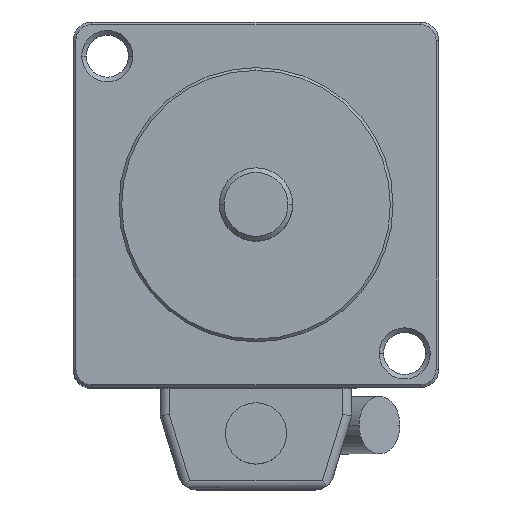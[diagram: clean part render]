
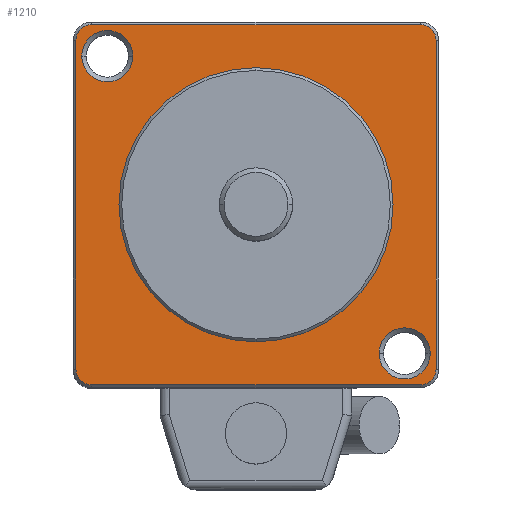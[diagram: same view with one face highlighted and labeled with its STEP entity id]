
A CAD part, top view. The second image highlights one B-rep face of the part: STEP entity #1210.
In plain terms, the highlighted planar face has unit normal (0, 0, 1).
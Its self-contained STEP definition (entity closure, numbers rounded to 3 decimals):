
#10=CARTESIAN_POINT('',(-19.7,-19.7,14.));
#20=DIRECTION('',(0.,0.,1.));
#30=DIRECTION('',(1.,0.,0.));
#40=AXIS2_PLACEMENT_3D('',#10,#20,#30);
#50=PLANE('',#40);
#60=CARTESIAN_POINT('',(-16.263,16.263,14.));
#70=DIRECTION('',(0.,0.,1.));
#80=DIRECTION('',(1.,0.,0.));
#90=AXIS2_PLACEMENT_3D('',#60,#70,#80);
#100=CIRCLE('',#90,2.8);
#110=CARTESIAN_POINT('',(-19.063,16.263,14.));
#120=VERTEX_POINT('',#110);
#130=CARTESIAN_POINT('',(-13.463,16.263,14.));
#140=VERTEX_POINT('',#130);
#150=EDGE_CURVE('',#120,#140,#100,.T.);
#160=ORIENTED_EDGE('',*,*,#150,.F.);
#170=EDGE_CURVE('',#140,#120,#100,.T.);
#180=ORIENTED_EDGE('',*,*,#170,.F.);
#190=EDGE_LOOP('',(#180,#160));
#200=FACE_BOUND('',#190,.T.);
#210=CARTESIAN_POINT('',(16.263,-16.263,14.));
#220=DIRECTION('',(0.,0.,1.));
#230=DIRECTION('',(1.,0.,0.));
#240=AXIS2_PLACEMENT_3D('',#210,#220,#230);
#250=CIRCLE('',#240,2.8);
#260=CARTESIAN_POINT('',(13.463,-16.263,14.));
#270=VERTEX_POINT('',#260);
#280=CARTESIAN_POINT('',(19.063,-16.263,14.));
#290=VERTEX_POINT('',#280);
#300=EDGE_CURVE('',#270,#290,#250,.T.);
#310=ORIENTED_EDGE('',*,*,#300,.F.);
#320=EDGE_CURVE('',#290,#270,#250,.T.);
#330=ORIENTED_EDGE('',*,*,#320,.F.);
#340=EDGE_LOOP('',(#330,#310));
#350=FACE_BOUND('',#340,.T.);
#360=CARTESIAN_POINT('',(0.,0.,14.))
;
#370=DIRECTION('',(0.,0.,1.));
#380=DIRECTION('',(1.,0.,0.));
#390=AXIS2_PLACEMENT_3D('',#360,#370,#380);
#400=CIRCLE('',#390,15.);
#410=CARTESIAN_POINT('',(-15.,0.,14.));
#420=VERTEX_POINT('',#410);
#430=CARTESIAN_POINT('',(15.,0.,14.));
#440=VERTEX_POINT('',#430);
#450=EDGE_CURVE('',#420,#440,#400,.T.);
#460=ORIENTED_EDGE('',*,*,#450,.F.);
#470=EDGE_CURVE('',#440,#420,#400,.T.);
#480=ORIENTED_EDGE('',*,*,#470,.F.);
#490=EDGE_LOOP('',(#480,#460));
#500=FACE_BOUND('',#490,.T.);
#510=CARTESIAN_POINT('',(-18.,18.,14.));
#520=DIRECTION('',(0.,0.,-1.));
#530=DIRECTION('',(-1.,0.,0.));
#540=AXIS2_PLACEMENT_3D('',#510,#520,#530);
#550=CIRCLE('',#540,1.7);
#560=CARTESIAN_POINT('',(-19.7,18.,14.));
#570=VERTEX_POINT('',#560);
#580=CARTESIAN_POINT('',(-18.,19.7,14.));
#590=VERTEX_POINT('',#580);
#600=EDGE_CURVE('',#570,#590,#550,.T.);
#610=ORIENTED_EDGE('',*,*,#600,.F.);
#620=CARTESIAN_POINT('',(0.,19.7,14.));
#630=DIRECTION('',(1.,0.,0.));
#640=VECTOR('',#630,1.);
#650=LINE('',#620,#640);
#660=CARTESIAN_POINT('',(18.,19.7,14.));
#670=VERTEX_POINT('',#660);
#680=EDGE_CURVE('',#590,#670,#650,.T.);
#690=ORIENTED_EDGE('',*,*,#680,.F.);
#700=CARTESIAN_POINT('',(18.,18.,14.));
#710=DIRECTION('',(0.,0.,-1.));
#720=DIRECTION('',(-1.,0.,0.));
#730=AXIS2_PLACEMENT_3D('',#700,#710,#720);
#740=CIRCLE('',#730,1.7);
#750=CARTESIAN_POINT('',(19.7,18.,14.));
#760=VERTEX_POINT('',#750);
#770=EDGE_CURVE('',#670,#760,#740,.T.);
#780=ORIENTED_EDGE('',*,*,#770,.F.);
#790=CARTESIAN_POINT('',(19.7,0.,14.));
#800=DIRECTION('',(0.,-1.,0.));
#810=VECTOR('',#800,1.);
#820=LINE('',#790,#810);
#830=CARTESIAN_POINT('',(19.7,-18.,14.));
#840=VERTEX_POINT('',#830);
#850=EDGE_CURVE('',#760,#840,#820,.T.);
#860=ORIENTED_EDGE('',*,*,#850,.F.);
#870=CARTESIAN_POINT('',(18.,-18.,14.));
#880=DIRECTION('',(0.,0.,-1.));
#890=DIRECTION('',(-1.,0.,0.));
#900=AXIS2_PLACEMENT_3D('',#870,#880,#890);
#910=CIRCLE('',#900,1.7);
#920=CARTESIAN_POINT('',(18.,-19.7,14.));
#930=VERTEX_POINT('',#920);
#940=EDGE_CURVE('',#840,#930,#910,.T.);
#950=ORIENTED_EDGE('',*,*,#940,.F.);
#960=CARTESIAN_POINT('',(0.,-19.7,14.));
#970=DIRECTION('',(-1.,0.,0.));
#980=VECTOR('',#970,1.);
#990=LINE('',#960,#980);
#1000=CARTESIAN_POINT('',(-18.,-19.7,14.));
#1010=VERTEX_POINT('',#1000);
#1020=EDGE_CURVE('',#930,#1010,#990,.T.);
#1030=ORIENTED_EDGE('',*,*,#1020,.F.);
#1040=CARTESIAN_POINT('',(-18.,-18.,14.));
#1050=DIRECTION('',(0.,0.,-1.));
#1060=DIRECTION('',(-1.,0.,0.));
#1070=AXIS2_PLACEMENT_3D('',#1040,#1050,#1060);
#1080=CIRCLE('',#1070,1.7);
#1090=CARTESIAN_POINT('',(-19.7,-18.,14.));
#1100=VERTEX_POINT('',#1090);
#1110=EDGE_CURVE('',#1010,#1100,#1080,.T.);
#1120=ORIENTED_EDGE('',*,*,#1110,.F.);
#1130=CARTESIAN_POINT('',(-19.7,0.,14.));
#1140=DIRECTION('',(0.,1.,0.));
#1150=VECTOR('',#1140,1.);
#1160=LINE('',#1130,#1150);
#1170=EDGE_CURVE('',#1100,#570,#1160,.T.);
#1180=ORIENTED_EDGE('',*,*,#1170,.F.);
#1190=EDGE_LOOP('',(#1180,#1120,#1030,#950,#860,#780,#690,#610));
#1200=FACE_OUTER_BOUND('',#1190,.T.);
#1210=ADVANCED_FACE('',(#200,#350,#500,#1200),#50,.T.);
